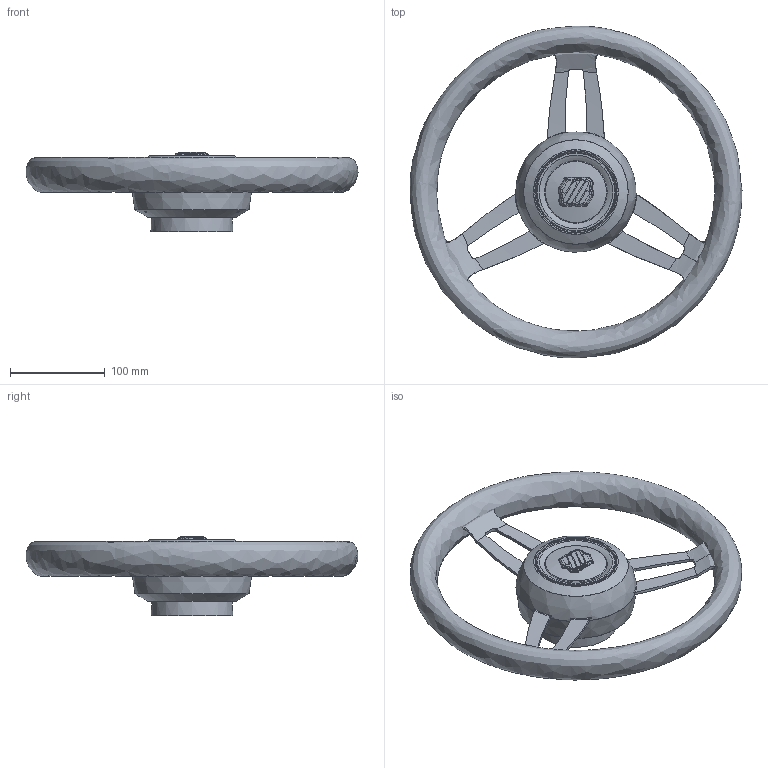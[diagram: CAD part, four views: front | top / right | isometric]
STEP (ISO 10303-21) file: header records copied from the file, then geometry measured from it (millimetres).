
FILE_DESCRIPTION(/* description */ ('MOZZO VOLANTE AG'),/* implementation_level */ '2;1');
FILE_NAME(/* name */ 'C:\Users\Milanese\Desktop\volanti per configuratore\MOROSINI.stp',/* time_stamp */ '2016-07-14T11:20:22+02:00',/* author */ ('Milanese'),/* organization */ (''),/* preprocessor_version */ 'ST-DEVELOPER v16.1',/* originating_system */ 'Autodesk Inventor 2016',/* authorisation */ '');
FILE_SCHEMA (('AUTOMOTIVE_DESIGN { 1 0 10303 214 3 1 1 }'));
Products named in the file (14): MOZZO; 21006 MOZZO [FILE SOLO PER INGOMBRO]; 27717 RAZZA MOROSINI-FOSCARI; 26918 COVER INFERIORE MG; 24403b VITE TESTA PIANA [FILE SOLO PER INGOMBRO]; 26919 COVER SUPERIORE MG; 14272d VITE TESTA SVASATA [FILE SOLO PER INGOMBRO]; 27265 ANELLO PER LENTE 27264; 27264 LENTE PER TARGHETTA DIS 27203; 27203 TARGHETTA IMBUTITA AG-MG; 27350 ANELLO ELASTICO CHIUSO; 26940 IMPUGNATURA MG (PROFILO); 27727 TAPPO ANTI ACQUA; COMPLESSIVO ASSEMBLATO MOROSINI
Assembly tree (23 placements, depth 2):
  COMPLESSIVO ASSEMBLATO MOROSINI
    MOZZO
    21006 MOZZO [FILE SOLO PER INGOMBRO]
    27717 RAZZA MOROSINI-FOSCARI
    26918 COVER INFERIORE MG
    24403b VITE TESTA PIANA [FILE SOLO PER INGOMBRO]  x9
    26919 COVER SUPERIORE MG
    14272d VITE TESTA SVASATA [FILE SOLO PER INGOMBRO]  x3
    27265 ANELLO PER LENTE 27264
    27264 LENTE PER TARGHETTA DIS 27203
    27203 TARGHETTA IMBUTITA AG-MG
    27350 ANELLO ELASTICO CHIUSO
    26940 IMPUGNATURA MG (PROFILO)
    27727 TAPPO ANTI ACQUA
Bounding box: 350.68 x 350.47 x 83.95 mm (x, y, z)
Volume: 1265564.2 mm3; surface area: 353364.9 mm2
Topology: 23 solids, 23 shells, 1629 faces, 4262 edges, 2719 vertices
Faces by surface type: plane 634, cylinder 570, bspline 202, torus 80, cone 76, sphere 67
Full cylindrical faces by diameter (mm): 3 x5, 3.1 x137, 4 x12, 5 x3, 5.1 x15, 5.5 x3, 6 x12, 9.5 x9, 18.408 x1, 18.5 x1, 32 x1, 32.2 x1, 42.5 x1, 45 x1, 49.8 x1, 50 x1, 51 x1, 55.5 x1, 66 x1
Entity records: 62848 total; most frequent: CARTESIAN_POINT 34655, ORIENTED_EDGE 5912, DIRECTION 5528, EDGE_CURVE 2956, AXIS2_PLACEMENT_3D 2239, VERTEX_POINT 1970, EDGE_LOOP 1444, FACE_OUTER_BOUND 1178
